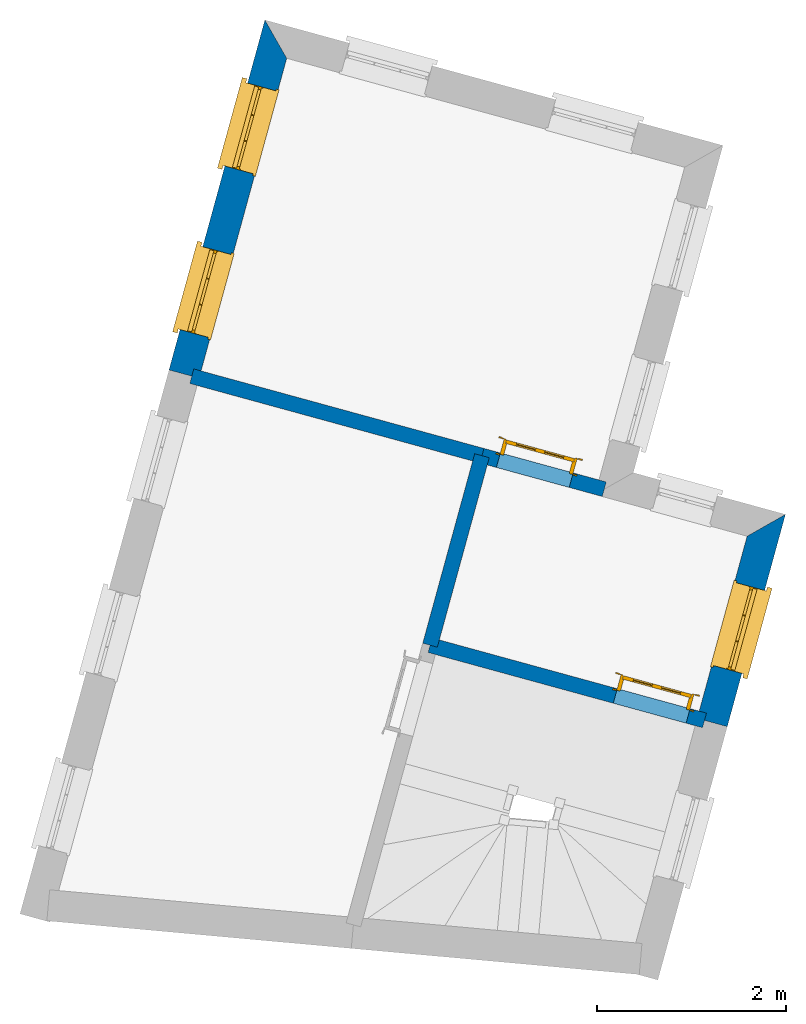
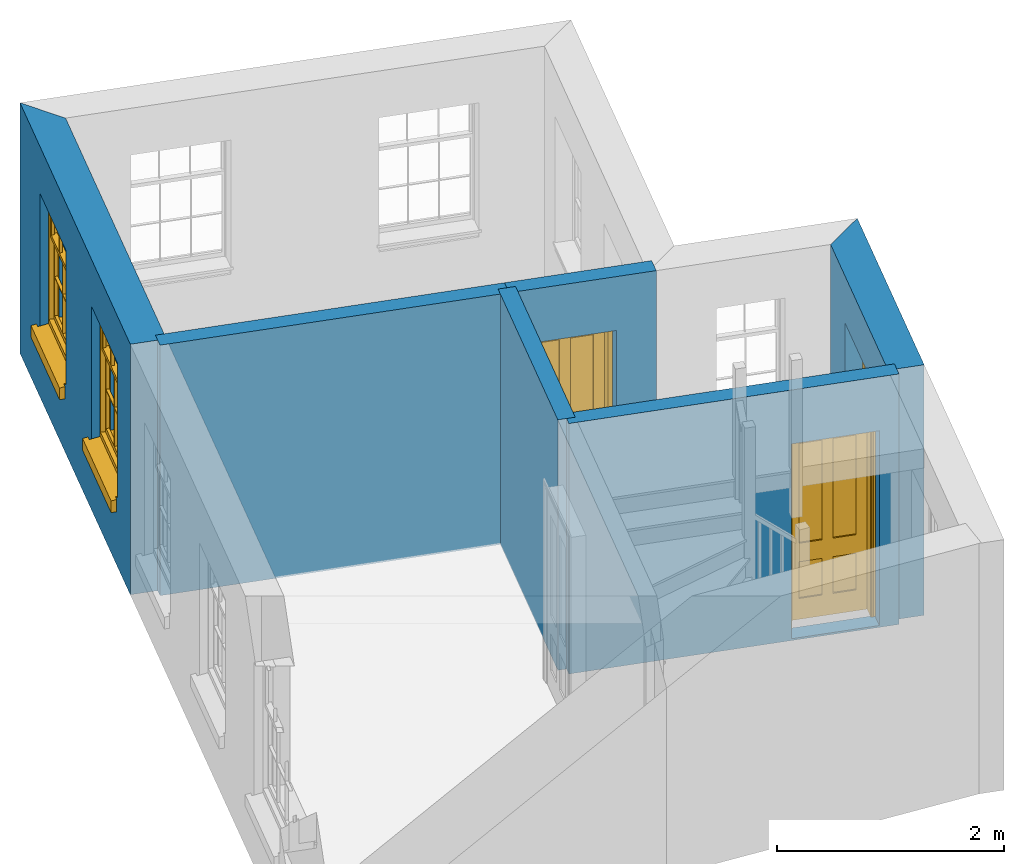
# One storey, part 2 of 4: 6 walls, 3 windows, 2 doors, 5 openings.
"""IFC4 building model written with IfcOpenShell, lengths in metres."""

import ifcopenshell
import ifcopenshell.guid

model = None  # the IFC model being written
_history = None  # IfcOwnerHistory: only IFC2X3 demands one
_inside = {}  # id of a spatial element -> (the spatial element, [elements in it])
_under = {}  # id of a project, library or spatial element -> (it, [spatial elements below it])
_declared = {}  # id of a project -> (the project, [libraries it declares])
_typed = {}  # id of a type object -> (the type object, [elements of that type])
_made_of = {}  # id of a material, layer set ... -> (it, [elements and type objects made of it])


def new_model(schema):
    """Start an empty IFC model of exactly this schema.

    Asked for "IFC4X3", IfcOpenShell would pick the latest addendum, in which some entities
    have other attributes; the version numbers below select the first issue.
    IFC2X3 requires an IfcOwnerHistory on every rooted entity: one is made here for all.
    """
    global model, _history
    if schema == "IFC4X3":
        model = ifcopenshell.file(schema_version=(4, 3, 0, 0))
    else:
        model = ifcopenshell.file(schema=schema)
    _inside.clear()
    _under.clear()
    _declared.clear()
    _typed.clear()
    _made_of.clear()
    _history = None
    if model.schema == "IFC2X3":
        org = make("IfcOrganization", Name="unknown")
        user = make(
            "IfcPersonAndOrganization",
            ThePerson=make("IfcPerson", FamilyName="unknown"),
            TheOrganization=org,
        )
        app = make(
            "IfcApplication",
            ApplicationDeveloper=org,
            Version="unknown",
            ApplicationFullName="unknown",
            ApplicationIdentifier="unknown",
        )
        _history = make(
            "IfcOwnerHistory",
            OwningUser=user,
            OwningApplication=app,
            ChangeAction="ADDED",
            CreationDate=0,
        )
    return model


def make(cls, **values):
    """One entity of the class cls with the attributes given. An attribute that is None is left unset."""
    return model.create_entity(
        cls, **{name: value for name, value in values.items() if value is not None}
    )


def rooted(cls, **values):
    """An entity with a GlobalId (a new one), such as an element, a storey or a relation."""
    return make(cls, GlobalId=ifcopenshell.guid.new(), OwnerHistory=_history, **values)


def si_unit(unit_type, name, prefix=None):
    """IfcSIUnit, for example si_unit("LENGTHUNIT", "METRE", prefix="MILLI")."""
    return make("IfcSIUnit", UnitType=unit_type, Prefix=prefix, Name=name)


def assignment(units):
    """IfcUnitAssignment: the units of a project."""
    return None if units is None else make("IfcUnitAssignment", Units=units)


def point(xyz):
    """IfcCartesianPoint."""
    return None if xyz is None else make("IfcCartesianPoint", Coordinates=xyz)


def direction(xyz):
    """IfcDirection."""
    return None if xyz is None else make("IfcDirection", DirectionRatios=xyz)


def frame(location, z_axis=None, x_axis=None):
    """IfcAxis2Placement3D, a coordinate frame: its origin and axes. An axis left out is left unset."""
    return make(
        "IfcAxis2Placement3D",
        Location=point(location),
        Axis=direction(z_axis),
        RefDirection=direction(x_axis),
    )


def origin():
    """The frame at (0, 0, 0) with its axes left unset."""
    return frame((0.0, 0.0, 0.0))


def origin_with_axes():
    """The frame at (0, 0, 0) with the z axis (0, 0, 1) and the x axis (1, 0, 0) written out."""
    return frame((0.0, 0.0, 0.0), z_axis=(0.0, 0.0, 1.0), x_axis=(1.0, 0.0, 0.0))


def place(relative_to, where):
    """IfcLocalPlacement: puts the frame where relative to a parent placement (None: the world)."""
    return make(
        "IfcLocalPlacement", PlacementRelTo=relative_to, RelativePlacement=where
    )


def context(
    kind, dimensions, precision=None, world=None, true_north=None, identifier=None
):
    """IfcGeometricRepresentationContext, for example the 3D "Model" context."""
    return make(
        "IfcGeometricRepresentationContext",
        ContextIdentifier=identifier,
        ContextType=kind,
        CoordinateSpaceDimension=dimensions,
        Precision=precision,
        WorldCoordinateSystem=world,
        TrueNorth=true_north,
    )


def subcontext(parent, identifier, kind, view, scale=None):
    """IfcGeometricRepresentationSubContext, for example "Body" below "Model"."""
    return make(
        "IfcGeometricRepresentationSubContext",
        ContextIdentifier=identifier,
        ContextType=kind,
        ParentContext=parent,
        TargetScale=scale,
        TargetView=view,
    )


def project(units=None, contexts=None):
    """IfcProject with its units and contexts."""
    return rooted(
        "IfcProject",
        Name="project",
        RepresentationContexts=contexts,
        UnitsInContext=assignment(units),
    )


def spatial(cls, under=None, at=None, **own):
    """A site, building, storey or space (cls), placed at a placement, below another one or the project."""
    s = rooted(cls, ObjectPlacement=at, **own)
    if under is not None:
        _under.setdefault(under.id(), (under, []))[1].append(s)
    return s


def polyline(points):
    """IfcPolyline through the points."""
    return make("IfcPolyline", Points=[point(p) for p in points])


def outline(outer, holes=None, kind="AREA"):
    """IfcArbitraryClosedProfileDef: a profile drawn as a closed curve; with holes, ...WithVoids."""
    if holes is None:
        return make("IfcArbitraryClosedProfileDef", ProfileType=kind, OuterCurve=outer)
    return make(
        "IfcArbitraryProfileDefWithVoids",
        ProfileType=kind,
        OuterCurve=outer,
        InnerCurves=holes,
    )


def extrude(swept, where, along, depth):
    """IfcExtrudedAreaSolid: the profile swept, set in the frame where, extruded along a direction by depth."""
    return make(
        "IfcExtrudedAreaSolid",
        SweptArea=swept,
        Position=where,
        ExtrudedDirection=direction(along),
        Depth=depth,
    )


def faces_of(points, faces, orient=None, outer=None):
    """IfcFace entities. A face is a list of loops; a loop is a list of indices into points, from 0.

    orient and outer hold one flag for each loop. By default every Orientation is true, the
    first loop of a face is its IfcFaceOuterBound and the others are IfcFaceBound.
    """
    made = []
    for i, loops in enumerate(faces):
        bounds = []
        for j, loop in enumerate(loops):
            is_outer = j == 0 if outer is None else outer[i][j]
            bounds.append(
                make(
                    "IfcFaceOuterBound" if is_outer else "IfcFaceBound",
                    Bound=make("IfcPolyLoop", Polygon=[points[k] for k in loop]),
                    Orientation=True if orient is None else orient[i][j],
                )
            )
        made.append(make("IfcFace", Bounds=bounds))
    return made


def faceted_brep(points, faces, orient=None, outer=None, voids=None):
    """IfcFacetedBrep: a solid bounded by flat faces; with voids (closed shells), ...WithVoids."""
    shared = [point(p) for p in points]
    hull = make("IfcClosedShell", CfsFaces=faces_of(shared, faces, orient, outer))
    if voids is None:
        return make("IfcFacetedBrep", Outer=hull)
    return make(
        "IfcFacetedBrepWithVoids",
        Outer=hull,
        Voids=[
            make(cls, CfsFaces=faces_of(shared, fs, o, b)) for cls, fs, o, b in voids
        ],
    )


def shape(context_of_items, identifier, shape_type, items):
    """IfcShapeRepresentation: the items that make up one representation, for example the "Body"."""
    return make(
        "IfcShapeRepresentation",
        ContextOfItems=context_of_items,
        RepresentationIdentifier=identifier,
        RepresentationType=shape_type,
        Items=items,
    )


def source(mapping_origin, context_of_items, identifier, shape_type, items):
    """IfcRepresentationMap: a shape defined once, which mapped items show again and again."""
    return make(
        "IfcRepresentationMap",
        MappingOrigin=mapping_origin,
        MappedRepresentation=shape(context_of_items, identifier, shape_type, items),
    )


def transform(
    local_origin,
    x_axis=None,
    y_axis=None,
    z_axis=None,
    scale=None,
    scale2=None,
    scale3=None,
    uniform=True,
):
    """IfcCartesianTransformationOperator3D, or its non-uniform kind. x_axis, y_axis, z_axis: its Axis1, 2, 3."""
    if uniform:
        return make(
            "IfcCartesianTransformationOperator3D",
            Axis1=direction(x_axis),
            Axis2=direction(y_axis),
            LocalOrigin=point(local_origin),
            Scale=scale,
            Axis3=direction(z_axis),
        )
    return make(
        "IfcCartesianTransformationOperator3DnonUniform",
        Axis1=direction(x_axis),
        Axis2=direction(y_axis),
        LocalOrigin=point(local_origin),
        Scale=scale,
        Axis3=direction(z_axis),
        Scale2=scale2,
        Scale3=scale3,
    )


def mapped(mapping_source, mapping_target):
    """IfcMappedItem: shows the shape of a source again, moved by a transform."""
    return make(
        "IfcMappedItem", MappingSource=mapping_source, MappingTarget=mapping_target
    )


def material(Name=None, Category=None):
    """IfcMaterial."""
    return make("IfcMaterial", Name=Name, Category=Category)


def layer(
    of_material, thickness, ventilated=None, Name=None, Category=None, Priority=None
):
    """IfcMaterialLayer: one layer of a wall or slab, of a material (None: an air gap)."""
    return make(
        "IfcMaterialLayer",
        Material=of_material,
        LayerThickness=thickness,
        IsVentilated=ventilated,
        Name=Name,
        Category=Category,
        Priority=Priority,
    )


def layer_set(layers, Name=None):
    """IfcMaterialLayerSet."""
    return make("IfcMaterialLayerSet", MaterialLayers=layers, LayerSetName=Name)


def layer_usage(for_layer_set, set_direction, sense, offset, extent=None):
    """IfcMaterialLayerSetUsage: how a layer set lies in its element."""
    return make(
        "IfcMaterialLayerSetUsage",
        ForLayerSet=for_layer_set,
        LayerSetDirection=set_direction,
        DirectionSense=sense,
        OffsetFromReferenceLine=offset,
        ReferenceExtent=extent,
    )


def made_of(thing, what):
    """Note that an element or type object is made of a material, layer set ...; save() writes the relation."""
    if what is not None:
        _made_of.setdefault(what.id(), (what, []))[1].append(thing)
    return thing


def type_object(cls, material=None, **own):
    """A type object (cls), such as IfcWallType, which elements share."""
    return made_of(rooted(cls, **own), material)


def type_shapes(of_type, sources):
    """Give a type object the sources (RepresentationMaps) that its elements show as mapped items."""
    of_type.RepresentationMaps = sources


def element(
    cls,
    number,
    at=None,
    inside=None,
    cuts=None,
    type_object=None,
    material=None,
    context=None,
    identifier="Body",
    shape_type=None,
    held_by="IfcProductDefinitionShape",
    body=None,
    shapes=None,
    **own,
):
    """One element of the class cls, such as IfcWall. Its Tag is "e" and its number.

    at: its placement. inside: the storey or other place that contains it. cuts: it is an
    opening in that element (IfcRelVoidsElement). A single representation is given by context,
    identifier, shape_type and body (its items); several are given by shapes. held_by: the class
    of the entity that holds the representations. save() writes the other relations.
    """
    e = rooted(cls, Tag="e%d" % number, ObjectPlacement=at, **own)
    if body is not None:
        shapes = [shape(context, identifier, shape_type, body)]
    if shapes is not None:
        e.Representation = make(held_by, Representations=shapes)
    if inside is not None:
        _inside.setdefault(inside.id(), (inside, []))[1].append(e)
    if cuts is not None:
        rooted(
            "IfcRelVoidsElement", RelatingBuildingElement=cuts, RelatedOpeningElement=e
        )
    if type_object is not None:
        _typed.setdefault(type_object.id(), (type_object, []))[1].append(e)
    return made_of(e, material)


def fill(opening, filler):
    """IfcRelFillsElement: the door or window that sits in an opening."""
    return rooted(
        "IfcRelFillsElement",
        RelatingOpeningElement=opening,
        RelatedBuildingElement=filler,
    )


def aggregate(whole, parts):
    """IfcRelAggregates: a whole, such as a stair, and the parts it consists of."""
    return rooted("IfcRelAggregates", RelatingObject=whole, RelatedObjects=parts)


def save(model, path):
    """Write the relations noted so far, then the file.

    IfcRelAggregates (storeys below a building ...), IfcRelContainedInSpatialStructure (elements
    in a storey), IfcRelDefinesByType, IfcRelAssociatesMaterial and IfcRelDeclares: one each for
    every whole, place, type object, material and project.
    """
    for whole, parts in _under.values():
        aggregate(whole, parts)
    for where, things in _inside.values():
        rooted(
            "IfcRelContainedInSpatialStructure",
            RelatedElements=things,
            RelatingStructure=where,
        )
    for kind, things in _typed.values():
        rooted("IfcRelDefinesByType", RelatedObjects=things, RelatingType=kind)
    for what, things in _made_of.values():
        rooted("IfcRelAssociatesMaterial", RelatedObjects=things, RelatingMaterial=what)
    for by, libraries in _declared.values():
        rooted("IfcRelDeclares", RelatingContext=by, RelatedDefinitions=libraries)
    model.write(path)


model = new_model("IFC4")

# Units and contexts
model_context = context("Model", 3, world=origin_with_axes())
body_context = subcontext(model_context, "Body", "Model", "MODEL_VIEW")
ifc_project = project(units=[si_unit("PLANEANGLEUNIT", "RADIAN"), si_unit("MASSUNIT", "GRAM", prefix="KILO"), si_unit("FORCEUNIT", "NEWTON", prefix="KILO"), si_unit("LENGTHUNIT", "METRE"), si_unit("AREAUNIT", "SQUARE_METRE"), si_unit("VOLUMEUNIT", "CUBIC_METRE")], contexts=[model_context, model_context])

# Sites, building, storey
site_1_placement = place(None, origin_with_axes())
site_1 = spatial("IfcSite", under=ifc_project, at=site_1_placement, Name="Tamar")
site_2_placement = place(site_1_placement, origin_with_axes())
site_2 = spatial("IfcSite", under=site_1, at=site_2_placement, Name="Site plot-28", CompositionType="ELEMENT")
building_placement = place(None, origin_with_axes())
building = spatial("IfcBuilding", under=site_2, at=building_placement, Name="Building plot-28", CompositionType="ELEMENT")
storey_placement = place(None, frame((0.0, 0.0, 27.15), z_axis=(0.0, 0.0, 1.0), x_axis=(1.0, 0.0, 0.0)))
storey = spatial("IfcBuildingStorey", under=building, at=storey_placement, Name="plot-28 1", CompositionType="ELEMENT", Elevation=27.15)

# Wall, opening, window
ifc_material_1 = material(Name="Masonry")
ifc_layer_1 = layer(ifc_material_1, 0.33, ventilated=False)
ifc_layer_set_1 = layer_set([ifc_layer_1], Name="exterior_0.08_0.25")
ifc_layer_usage_1 = layer_usage(ifc_layer_set_1, "AXIS2", "POSITIVE", -0.25)
wall_type_1 = type_object("IfcWallType", Name="exterior_0.08_0.25", PredefinedType="SOLIDWALL", material=ifc_layer_set_1)
wall_1_placement = place(storey_placement, frame((266.03017594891, 261.552061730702, 0.0), z_axis=(0.0, 0.0, 1.0), x_axis=(0.26425530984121, 0.96445276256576, 0.0)))
wall_1 = element("IfcWall", 1, at=wall_1_placement, inside=storey, type_object=wall_type_1, material=ifc_layer_usage_1, Name="exterior", context=body_context, shape_type="SweptSolid", body=[
    extrude(outline(polyline([(5.82694029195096e-14, 0.0799999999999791), (-1.87556871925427e-13, -0.249999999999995), (2.33108839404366, -0.250000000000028), (2.00108839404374, 0.0800000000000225), (5.82694029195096e-14, 0.0799999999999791)])), origin_with_axes(), (0.0, 0.0, 1.0), 2.7),
])
opening_1_placement = place(wall_1_placement, frame((0.58554419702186, 0.0, 0.75)))
opening_1 = element("IfcOpeningElement", 2, at=opening_1_placement, cuts=wall_1, Name="My Opening", ObjectType="Opening", context=body_context, shape_type="SweptSolid", body=[
    extrude(outline(polyline([(0.0, -0.270000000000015), (0.909999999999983, -0.269999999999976), (0.909999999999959, 1.10000000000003), (-2.37587727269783e-14, 1.09999999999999), (0.0, -0.270000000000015)])), origin_with_axes(), (0.0, 0.0, 1.0), 1.445),
])
window_type = type_object("IfcWindowType", Name="sash_shorter", PartitioningType="DOUBLE_PANEL_HORIZONTAL", PredefinedType="NOTDEFINED")
shared_shape_1 = source(origin(), body_context, "Body", "Brep", [
    faceted_brep([(0.876875, 0.145, 0.999097), (0.876875, 0.145, 1.411875), (0.9, 0.145, 1.435), (0.033125, 0.145, 1.411875), (0.033125, 0.145, 0.999097), (0.01, 0.145, 1.435), (0.033125, 0.115, 1.411875), (0.01, 0.115, 1.435), (0.033125, 0.115, 0.999097), (0.876875, 0.115, 1.411875), (0.876875, 0.115, 0.999097), (0.9, 0.115, 1.435), (0.033125, 0.145, 0.960972), (0.01, 0.145, 0.960972), (0.033125, 0.145, 0.548195), (0.876875, 0.145, 0.960972), (0.876875, 0.145, 0.548195), (0.9, 0.145, 0.960972), (0.876875, 0.145, 0.538195), (0.876875, 0.145, 0.125417), (0.9, 0.145, 0.077167), (0.033125, 0.145, 0.125417), (0.033125, 0.145, 0.538195), (0.01, 0.145, 0.077167), (0.9, 0.115, 0.960972), (0.01, 0.115, 0.960972), (-0.0425, 0.0, 0.01), (-0.0425, -0.05, 0.001667), (0.0, 0.0, 0.01), (0.9525, 0.0, 0.01), (0.91, 0.0, 0.01), (0.9525, -0.05, 0.001667), (-0.02, 0.33, 0.077167), (0.0, 0.33, 0.077167), (-0.02, 0.36, 0.077167), (0.0, 0.19, 0.077167), (0.01, 0.19, 0.077167), (0.91, 0.19, 0.077167), (0.91, 0.33, 0.077167), (0.9, 0.19, 0.077167), (0.93, 0.33, 0.077167), (0.93, 0.36, 0.077167), (0.01, 0.145, 0.999097), (0.01, 0.175, 0.999097), (0.9, 0.145, 0.999097), (0.9, 0.175, 0.999097), (0.876875, 0.175, 0.125417), (0.876875, 0.175, 0.538195), (0.9, 0.175, 0.077167), (0.876875, 0.175, 0.548195), (0.876875, 0.175, 0.960972), (0.033125, 0.175, 0.125417), (0.01, 0.175, 0.077167), (0.033125, 0.175, 0.538195), (0.033125, 0.175, 0.960972), (0.033125, 0.175, 0.548195), (-0.02, 0.33, 0.052167), (-0.02, 0.36, 0.052167), (0.93, 0.36, 0.052167), (0.93, 0.33, 0.052167), (0.91, 0.33, 0.052167), (0.0, 0.33, 0.052167), (0.91, 0.1, 0.026667), (0.0, 0.1, 0.026667), (-0.0425, -0.05, -0.123333), (0.9525, -0.05, -0.123333), (-0.0425, 0.0, -0.123333), (0.9525, 0.0, -0.123333), (0.01, 0.19, 1.435), (0.9, 0.19, 1.435), (0.0, 0.19, 1.445), (0.91, 0.19, 1.445), (0.01, 0.1, 0.077167), (0.9, 0.1, 0.077167), (0.592292, 0.145, 0.125417), (0.592292, 0.175, 0.125417), (0.317708, 0.175, 0.125417), (0.317708, 0.145, 0.125417), (0.592292, 0.145, 0.548195), (0.317708, 0.145, 0.548195), (0.317708, 0.145, 0.538195), (0.592292, 0.145, 0.538195), (0.592292, 0.175, 0.548195), (0.317708, 0.175, 0.548195), (0.602292, 0.175, 0.548195), (0.602292, 0.145, 0.548195), (0.317708, 0.175, 0.538195), (0.307708, 0.175, 0.125417), (0.307708, 0.175, 0.538195), (0.602292, 0.175, 0.538195), (0.602292, 0.175, 0.125417), (0.592292, 0.175, 0.538195), (0.307708, 0.175, 0.548195), (0.317708, 0.175, 0.960972), (0.307708, 0.175, 0.960972), (0.602292, 0.175, 0.960972), (0.592292, 0.175, 0.960972), (0.307708, 0.145, 0.538195), (0.307708, 0.145, 0.125417), (0.307708, 0.145, 0.548195), (0.307708, 0.145, 0.960972), (0.592292, 0.145, 0.960972), (0.317708, 0.145, 0.960972), (0.602292, 0.145, 0.960972), (0.602292, 0.145, 0.538195), (0.602292, 0.145, 0.125417), (0.317708, 0.115, 1.411875), (0.307708, 0.115, 1.411875), (0.307708, 0.115, 0.999097), (0.317708, 0.115, 0.999097), (0.602292, 0.115, 1.411875), (0.592292, 0.115, 1.411875), (0.592292, 0.115, 0.999097), (0.602292, 0.115, 0.999097), (0.317708, 0.145, 0.999097), (0.307708, 0.145, 0.999097), (0.307708, 0.145, 1.411875), (0.317708, 0.145, 1.411875), (0.602292, 0.145, 0.999097), (0.592292, 0.145, 0.999097), (0.592292, 0.145, 1.411875), (0.602292, 0.145, 1.411875), (0.91, 0.1, 1.445), (0.9, 0.1, 1.435), (0.01, 0.1, 1.435), (0.0, 0.1, 1.445), (0.91, 0.0, 0.0), (0.0, 0.0, 0.0), (0.91, 0.33, 0.0), (0.0, 0.33, 0.0)], [[[0, 1, 2]], [[3, 4, 5]], [[6, 7, 8]], [[9, 10, 11]], [[12, 13, 14]], [[15, 16, 17]], [[18, 19, 20]], [[21, 22, 23]], [[24, 15, 17]], [[13, 12, 25]], [[26, 27, 28]], [[29, 30, 31]], [[32, 33, 34]], [[35, 36, 33]], [[37, 38, 39]], [[40, 41, 38]], [[42, 4, 43]], [[44, 45, 0]], [[46, 47, 48]], [[49, 50, 45]], [[51, 52, 53]], [[54, 55, 43]], [[38, 33, 36, 39]], [[41, 34, 33, 38]], [[56, 32, 34, 57]], [[57, 34, 41, 58]], [[58, 41, 40, 59]], [[57, 58, 60, 61]], [[52, 48, 39, 36]], [[62, 63, 28, 30]], [[27, 31, 30, 28]], [[27, 64, 65, 31]], [[66, 67, 65, 64]], [[2, 5, 68, 69]], [[68, 70, 71, 69]], [[20, 23, 72, 73]], [[73, 72, 63, 62]], [[74, 75, 76, 77]], [[78, 79, 80, 81]], [[78, 82, 83, 79]], [[16, 49, 84, 85]], [[86, 76, 87, 88]], [[89, 90, 75, 91]], [[92, 88, 53, 55]], [[82, 91, 86, 83]], [[93, 83, 92, 94]], [[95, 84, 82, 96]], [[89, 84, 49, 47]], [[97, 88, 87, 98]], [[22, 53, 88, 97]], [[81, 91, 75, 74]], [[80, 86, 91, 81]], [[77, 76, 86, 80]], [[99, 92, 55, 14]], [[100, 94, 92, 99]], [[101, 96, 82, 78]], [[79, 83, 93, 102]], [[85, 84, 95, 103]], [[104, 89, 47, 18]], [[105, 90, 89, 104]], [[104, 18, 16, 85]], [[80, 97, 98, 77]], [[104, 81, 74, 105]], [[103, 101, 78, 85]], [[99, 14, 22, 97]], [[102, 100, 99, 79]], [[106, 107, 108, 109]], [[110, 111, 112, 113]], [[114, 115, 116, 117]], [[118, 119, 120, 121]], [[107, 116, 115, 108]], [[111, 120, 119, 112]], [[109, 114, 117, 106]], [[113, 118, 121, 110]], [[85, 78, 81, 104]], [[84, 89, 91, 82]], [[83, 86, 88, 92]], [[79, 99, 97, 80]], [[109, 112, 119, 114]], [[102, 93, 96, 101]], [[106, 117, 120, 111]], [[98, 87, 51, 21]], [[6, 3, 116, 107]], [[110, 121, 1, 9]], [[19, 46, 90, 105]], [[26, 66, 64, 27]], [[29, 31, 65, 67]], [[25, 24, 112, 109]], [[11, 7, 106, 111]], [[75, 48, 52, 76]], [[43, 45, 96, 93]], [[45, 43, 114, 119]], [[5, 2, 120, 117]], [[24, 25, 102, 101]], [[42, 5, 4]], [[2, 44, 0]], [[49, 45, 48, 47]], [[52, 43, 55, 53]], [[14, 13, 23, 22]], [[20, 17, 16, 18]], [[24, 11, 10]], [[25, 8, 7]], [[8, 4, 3, 6]], [[9, 1, 0, 10]], [[15, 50, 49, 16]], [[18, 47, 46, 19]], [[21, 51, 53, 22]], [[14, 55, 54, 12]], [[44, 2, 69, 45]], [[68, 5, 42, 43]], [[36, 35, 70, 68]], [[39, 69, 71, 37]], [[62, 122, 123, 73]], [[63, 72, 124, 125]], [[8, 108, 115, 4]], [[113, 10, 0, 118]], [[94, 100, 12, 54]], [[17, 20, 73, 24]], [[72, 23, 13, 25]], [[52, 36, 68, 43]], [[69, 39, 48, 45]], [[11, 24, 73, 123]], [[7, 124, 72, 25]], [[23, 77, 98]], [[98, 21, 23]], [[105, 74, 20]], [[20, 19, 105]], [[20, 74, 77, 23]], [[113, 112, 24]], [[24, 10, 113]], [[25, 109, 108]], [[108, 8, 25]], [[110, 9, 11]], [[11, 111, 110]], [[7, 6, 107]], [[107, 106, 7]], [[5, 117, 116]], [[116, 3, 5]], [[121, 120, 2]], [[2, 1, 121]], [[11, 123, 124, 7]], [[122, 125, 124, 123]], [[43, 93, 94]], [[94, 54, 43]], [[96, 45, 95]], [[50, 95, 45]], [[15, 103, 95, 50]], [[48, 75, 90]], [[90, 46, 48]], [[87, 76, 52]], [[52, 51, 87]], [[103, 15, 24]], [[24, 101, 103]], [[100, 102, 25]], [[25, 12, 100]], [[115, 114, 43]], [[43, 4, 115]], [[118, 0, 45]], [[45, 119, 118]], [[71, 70, 125, 122]], [[70, 35, 63, 125]], [[122, 62, 37, 71]], [[126, 67, 66, 127]], [[60, 58, 59]], [[38, 60, 59, 40]], [[61, 56, 57]], [[32, 56, 61, 33]], [[61, 60, 128, 129]], [[62, 60, 38, 37]], [[126, 128, 60, 62]], [[33, 61, 63, 35]], [[61, 129, 127, 63]], [[128, 126, 127, 129]], [[28, 127, 66, 26]], [[63, 127, 28]], [[29, 67, 126, 30]], [[30, 126, 62]]]),
])
type_shapes(window_type, [shared_shape_1])
window_1_placement = place(storey_placement, frame((266.445311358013, 262.045442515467, 0.75), z_axis=(0.0, 0.0, 1.0), x_axis=(0.240472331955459, 0.877652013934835, 0.0)))
window_1 = element("IfcWindow", 3, at=window_1_placement, inside=storey, type_object=window_type, Name="circulation outside window", OverallHeight=1.445, OverallWidth=0.91, context=body_context, shape_type="MappedRepresentation", body=[
    mapped(shared_shape_1, transform((0.0, 0.0, 0.0), scale=1.0)),
])
fill(opening_1, window_1)

# Wall, openings, windows
wall_2_placement = place(storey_placement, frame((261.549386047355, 268.663273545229, 0.0), z_axis=(0.0, 0.0, 1.0), x_axis=(-0.264255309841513, -0.964452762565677, 0.0)))
wall_2 = element("IfcWall", 4, at=wall_2_placement, inside=storey, type_object=wall_type_1, material=ifc_layer_usage_1, Name="exterior", context=body_context, shape_type="SweptSolid", body=[
    extrude(outline(polyline([(0.0799999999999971, 0.0800000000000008), (-0.250000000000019, -0.249999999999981), (3.59326696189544, -0.250000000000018), (3.59326696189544, 0.080000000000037), (0.0799999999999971, 0.0800000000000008)])), origin_with_axes(), (0.0, 0.0, 1.0), 2.7),
])
opening_2_placement = place(wall_2_placement, frame((0.443316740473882, 0.0, 0.75)))
opening_2 = element("IfcOpeningElement", 5, at=opening_2_placement, cuts=wall_2, Name="My Opening", ObjectType="Opening", context=body_context, shape_type="SweptSolid", body=[
    extrude(outline(polyline([(0.0, -0.269999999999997), (0.910000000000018, -0.270000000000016), (0.91000000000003, 1.10000000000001), (1.28785870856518e-14, 1.10000000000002), (0.0, -0.269999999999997)])), origin_with_axes(), (0.0, 0.0, 1.0), 1.445),
])
opening_3_placement = place(wall_2_placement, frame((2.23995022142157, 0.0, 0.75)))
opening_3 = element("IfcOpeningElement", 6, at=opening_3_placement, cuts=wall_2, Name="My Opening", ObjectType="Opening", context=body_context, shape_type="SweptSolid", body=[
    extrude(outline(polyline([(0.0, -0.270000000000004), (0.910000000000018, -0.270000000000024), (0.91000000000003, 1.1), (1.28785870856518e-14, 1.10000000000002), (0.0, -0.270000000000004)])), origin_with_axes(), (0.0, 0.0, 1.0), 1.445),
])
window_2_placement = place(storey_placement, frame((261.17183499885, 268.307064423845, 0.75), z_axis=(0.0, 0.0, 1.0), x_axis=(-0.2404723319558, -0.877652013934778, 0.0)))
window_2 = element("IfcWindow", 7, at=window_2_placement, inside=storey, type_object=window_type, Name="bedroom outside window", OverallHeight=1.445, OverallWidth=0.91, context=body_context, shape_type="MappedRepresentation", body=[
    mapped(shared_shape_1, transform((0.0, 0.0, 0.0), scale=1.0)),
])
fill(opening_2, window_2)
window_3_placement = place(storey_placement, frame((260.697065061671, 266.574296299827, 0.75), z_axis=(0.0, 0.0, 1.0), x_axis=(-0.2404723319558, -0.877652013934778, 0.0)))
window_3 = element("IfcWindow", 8, at=window_3_placement, inside=storey, type_object=window_type, Name="bedroom outside window", OverallHeight=1.445, OverallWidth=0.91, context=body_context, shape_type="MappedRepresentation", body=[
    mapped(shared_shape_1, transform((0.0, 0.0, 0.0), scale=1.0)),
])
fill(opening_3, window_3)

# Walls
ifc_material_2 = material(Name="Masonry")
ifc_layer_2 = layer(ifc_material_2, 0.16, ventilated=False)
ifc_layer_set_2 = layer_set([ifc_layer_2], Name="interior_0.08_0.08")
ifc_layer_usage_2 = layer_usage(ifc_layer_set_2, "AXIS2", "POSITIVE", -0.08)
wall_type_2 = type_object("IfcWallType", Name="interior_0.08_0.08", PredefinedType="SOLIDWALL", material=ifc_layer_set_2)
wall_3_placement = place(storey_placement, frame((263.673281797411, 264.35563106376, 0.0), z_axis=(0.0, 0.0, 1.0), x_axis=(-0.964452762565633, 0.264255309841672, 0.0)))
element("IfcWall", 9, at=wall_3_placement, inside=storey, type_object=wall_type_2, material=ifc_layer_usage_2, Name="interior", context=body_context, shape_type="SweptSolid", body=[
    extrude(outline(polyline([(1.99000951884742e-14, 0.0799999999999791), (-1.9908061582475e-14, -0.0799999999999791), (3.18671452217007, -0.0799999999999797), (3.18671452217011, 0.0799999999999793), (1.99000951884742e-14, 0.0799999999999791)])), origin_with_axes(), (0.0, 0.0, 1.0), 2.7),
])
wall_4_placement = place(storey_placement, frame((263.673281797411, 264.35563106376, 0.0), z_axis=(0.0, 0.0, 1.0), x_axis=(-0.264255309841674, -0.964452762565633, 0.0)))
element("IfcWall", 10, at=wall_4_placement, inside=storey, type_object=wall_type_2, material=ifc_layer_usage_2, Name="interior", context=body_context, shape_type="SweptSolid", body=[
    extrude(outline(polyline([(1.96673380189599e-14, 0.0799999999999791), (-1.9712662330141e-14, -0.0799999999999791), (2.08108839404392, -0.0799999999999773), (2.08108839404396, 0.0799999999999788), (1.96673380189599e-14, 0.0799999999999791)])), origin_with_axes(), (0.0, 0.0, 1.0), 2.7),
])

# Wall, opening, door
wall_5_placement = place(storey_placement, frame((263.123343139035, 262.348519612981, 0.0), z_axis=(0.0, 0.0, 1.0), x_axis=(0.964452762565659, -0.264255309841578, 0.0)))
wall_5 = element("IfcWall", 11, at=wall_5_placement, inside=storey, type_object=wall_type_2, material=ifc_layer_usage_2, Name="interior", context=body_context, shape_type="SweptSolid", body=[
    extrude(outline(polyline([(2.77338288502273e-14, 0.0799999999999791), (-2.77258624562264e-14, -0.0799999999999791), (3.01397115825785, -0.0799999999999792), (3.0139711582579, 0.079999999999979), (2.77338288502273e-14, 0.0799999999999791)])), origin_with_axes(), (0.0, 0.0, 1.0), 2.7),
])
opening_4_placement = place(wall_5_placement, frame((2.03397115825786, 0.0, 0.0199999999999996)))
opening_4 = element("IfcOpeningElement", 12, at=opening_4_placement, cuts=wall_5, Name="My Opening", ObjectType="Opening", context=body_context, shape_type="SweptSolid", body=[
    extrude(outline(polyline([(0.0, -0.100000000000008), (0.80000000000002, -0.100000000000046), (0.800000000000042, 1.1), (2.1316282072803e-14, 1.10000000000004), (0.0, -0.100000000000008)])), origin_with_axes(), (0.0, 0.0, 1.0), 2.1),
])
door_type = type_object("IfcDoorType", Name="door_inside", OperationType="SINGLE_SWING_LEFT", PredefinedType="NOTDEFINED")
shared_shape_2 = source(origin(), body_context, "Body", "Brep", [
    faceted_brep([(0.773, 0.33, 1.895), (0.66, 0.33, 1.895), (0.66, 0.33, 2.073), (0.773, 0.33, 2.073), (0.773, 0.33, 0.82), (0.66, 0.33, 0.82), (0.45, 0.33, 1.895), (0.45, 0.33, 2.073), (0.773, 0.33, 0.62), (0.66, 0.33, 0.62), (0.66, 0.315, 0.82), (0.66, 0.315, 1.895), (0.45, 0.315, 1.895), (0.35, 0.33, 1.895), (0.35, 0.33, 2.073), (0.773, 0.33, 0.225), (0.66, 0.33, 0.225), (0.45, 0.33, 0.62), (0.45, 0.33, 0.82), (0.45, 0.315, 0.82), (0.35, 0.33, 0.82), (0.14, 0.33, 2.073), (0.14, 0.33, 1.895), (0.773, 0.33, 0.0), (0.66, 0.33, 0.0), (0.66, 0.315, 0.225), (0.66, 0.315, 0.62), (0.45, 0.315, 0.62), (0.35, 0.33, 0.62), (0.35, 0.315, 0.82), (0.35, 0.315, 1.895), (0.14, 0.315, 1.895), (0.027, 0.33, 2.073), (0.027, 0.33, 1.895), (0.773, 0.292, 0.0), (0.66, 0.292, 0.0), (0.45, 0.33, 0.0), (0.45, 0.33, 0.225), (0.45, 0.315, 0.225), (0.35, 0.33, 0.225), (0.14, 0.33, 0.82), (0.14, 0.33, 0.62), (0.14, 0.315, 0.82), (0.027, 0.33, 0.82), (0.773, 0.292, 0.225), (0.66, 0.292, 0.225), (0.45, 0.292, 0.0), (0.35, 0.33, 0.0), (0.35, 0.315, 0.225), (0.35, 0.315, 0.62), (0.14, 0.315, 0.62), (0.027, 0.33, 0.62), (0.773, 0.292, 0.62), (0.66, 0.292, 0.62), (0.45, 0.292, 0.225), (0.35, 0.292, 0.0), (0.14, 0.33, 0.225), (0.14, 0.33, 0.0), (0.14, 0.315, 0.225), (0.027, 0.33, 0.225), (0.773, 0.292, 0.82), (0.66, 0.292, 0.82), (0.66, 0.307, 0.62), (0.66, 0.307, 0.225), (0.45, 0.307, 0.225), (0.35, 0.292, 0.225), (0.14, 0.292, 0.0), (0.027, 0.33, 0.0), (0.773, 0.292, 1.895), (0.66, 0.292, 1.895), (0.45, 0.292, 0.62), (0.45, 0.292, 0.82), (0.45, 0.307, 0.62), (0.35, 0.292, 0.62), (0.14, 0.292, 0.225), (0.027, 0.292, 0.0), (0.773, 0.292, 2.073), (0.66, 0.292, 2.073), (0.66, 0.307, 1.895), (0.66, 0.307, 0.82), (0.45, 0.307, 0.82), (0.35, 0.292, 0.82), (0.35, 0.307, 0.62), (0.35, 0.307, 0.225), (0.14, 0.307, 0.225), (0.027, 0.292, 0.225), (0.45, 0.292, 1.895), (0.45, 0.292, 2.073), (0.45, 0.307, 1.895), (0.35, 0.292, 1.895), (0.14, 0.292, 0.82), (0.14, 0.292, 0.62), (0.14, 0.307, 0.62), (0.027, 0.292, 0.62), (0.35, 0.292, 2.073), (0.35, 0.307, 1.895), (0.35, 0.307, 0.82), (0.14, 0.307, 0.82), (0.027, 0.292, 0.82), (0.14, 0.292, 2.073), (0.14, 0.292, 1.895), (0.14, 0.307, 1.895), (0.027, 0.292, 1.895), (0.027, 0.292, 2.073), (0.02, 0.335, 0.0), (0.005, 0.34, 0.0), (0.005, 0.34, 2.095), (0.02, 0.335, 2.08), (0.02, 0.33, 0.0), (0.0, 0.335, 0.0), (0.0, 0.335, 2.1), (0.795, 0.34, 2.095), (0.78, 0.335, 2.08), (0.02, 0.33, 2.08), (0.0, 0.33, 0.0), (-0.032, 0.345, 0.0), (-0.032, 0.345, 2.132), (0.8, 0.335, 2.1), (0.795, 0.34, 0.0), (0.78, 0.335, 0.0), (0.78, 0.33, 2.08), (0.04, 0.29, 0.0), (0.025, 0.29, 0.0), (0.025, 0.29, 2.075), (0.04, 0.29, 2.06), (-0.04, 0.34, 0.0), (-0.04, 0.34, 2.14), (0.832, 0.345, 2.132), (0.8, 0.335, 0.0), (0.78, 0.33, 0.0), (0.8, 0.33, 0.0), (0.86, 0.33, 0.0), (0.86, 0.33, 2.16), (0.8, 0.33, 2.1), (-0.06, 0.33, 2.16), (0.0, 0.33, 2.1), (-0.06, 0.33, 0.0), (-0.04, 0.345, 0.0), (-0.04, 0.345, 2.14), (0.84, 0.34, 2.14), (0.832, 0.345, 0.0), (0.84, 0.34, 0.0), (0.86, 0.345, 0.0), (0.86, 0.345, 2.16), (-0.06, 0.345, 2.16), (-0.06, 0.345, 0.0), (0.84, 0.345, 0.0), (0.84, 0.345, 2.14), (-0.025, 0.155, 0.0), (-0.025, 0.16, 0.0), (-0.025, 0.16, 2.125), (-0.025, 0.155, 2.125), (-0.017, 0.155, 0.0), (-0.017, 0.155, 2.117), (0.825, 0.16, 2.125), (0.825, 0.155, 2.125), (0.825, 0.155, 0.0), (0.845, 0.155, 0.0), (-0.045, 0.155, 2.145), (-0.045, 0.155, 0.0), (0.845, 0.155, 2.145), (0.015, 0.165, 0.0), (0.015, 0.165, 2.085), (0.817, 0.155, 2.117), (0.825, 0.16, 0.0), (0.845, 0.17, 0.0), (0.845, 0.17, 2.145), (-0.045, 0.17, 2.145), (-0.045, 0.17, 0.0), (0.02, 0.16, 0.0), (0.02, 0.16, 2.08), (0.785, 0.165, 2.085), (0.817, 0.155, 0.0), (0.8, 0.17, 0.0), (0.8, 0.17, 2.1), (0.0, 0.17, 2.1), (0.0, 0.17, 0.0), (0.035, 0.165, 0.0), (0.035, 0.165, 2.065), (0.78, 0.16, 2.08), (0.785, 0.165, 0.0), (0.775, 0.29, 2.075), (0.76, 0.29, 2.06), (0.035, 0.17, 2.065), (0.035, 0.17, 0.0), (0.765, 0.165, 2.065), (0.78, 0.16, 0.0), (0.765, 0.17, 0.0), (0.765, 0.17, 2.065), (0.765, 0.165, 0.0), (0.04, 0.17, 2.06), (0.04, 0.17, 0.0), (0.76, 0.17, 2.06), (0.76, 0.17, 0.0), (0.76, 0.29, 0.0), (0.775, 0.29, 0.0), (0.025, 0.33, 0.0), (0.025, 0.33, 2.075), (0.775, 0.33, 0.0), (0.775, 0.33, 2.075)], [[[0, 1, 2, 3]], [[1, 0, 4, 5]], [[1, 6, 7, 2]], [[8, 9, 5, 4]], [[1, 5, 10, 11]], [[6, 1, 11, 12]], [[6, 13, 14, 7]], [[15, 16, 9, 8]], [[9, 17, 18, 5]], [[5, 18, 19, 10]], [[10, 19, 12, 11]], [[18, 6, 12, 19]], [[18, 20, 13, 6]], [[21, 14, 13, 22]], [[23, 24, 16, 15]], [[9, 16, 25, 26]], [[17, 9, 26, 27]], [[17, 28, 20, 18]], [[13, 20, 29, 30]], [[22, 13, 30, 31]], [[32, 21, 22, 33]], [[34, 35, 24, 23]], [[24, 36, 37, 16]], [[16, 37, 38, 25]], [[25, 38, 27, 26]], [[37, 17, 27, 38]], [[37, 39, 28, 17]], [[40, 20, 28, 41]], [[20, 40, 42, 29]], [[31, 30, 29, 42]], [[40, 22, 31, 42]], [[33, 22, 40, 43]], [[35, 34, 44, 45]], [[35, 46, 36, 24]], [[36, 47, 39, 37]], [[28, 39, 48, 49]], [[41, 28, 49, 50]], [[43, 40, 41, 51]], [[45, 44, 52, 53]], [[46, 35, 45, 54]], [[46, 55, 47, 36]], [[56, 39, 47, 57]], [[39, 56, 58, 48]], [[50, 49, 48, 58]], [[56, 41, 50, 58]], [[51, 41, 56, 59]], [[53, 52, 60, 61]], [[45, 53, 62, 63]], [[54, 45, 63, 64]], [[55, 46, 54, 65]], [[55, 66, 57, 47]], [[59, 56, 57, 67]], [[61, 60, 68, 69]], [[70, 53, 61, 71]], [[53, 70, 72, 62]], [[72, 64, 63, 62]], [[70, 54, 64, 72]], [[65, 54, 70, 73]], [[65, 74, 66, 55]], [[67, 57, 66, 75]], [[69, 68, 76, 77]], [[61, 69, 78, 79]], [[71, 61, 79, 80]], [[73, 70, 71, 81]], [[65, 73, 82, 83]], [[74, 65, 83, 84]], [[74, 85, 75, 66]], [[86, 69, 77, 87]], [[69, 86, 88, 78]], [[88, 80, 79, 78]], [[86, 71, 80, 88]], [[81, 71, 86, 89]], [[73, 81, 90, 91]], [[73, 91, 92, 82]], [[83, 82, 92, 84]], [[91, 74, 84, 92]], [[91, 93, 85, 74]], [[89, 86, 87, 94]], [[81, 89, 95, 96]], [[90, 81, 96, 97]], [[90, 98, 93, 91]], [[94, 99, 100, 89]], [[89, 100, 101, 95]], [[101, 97, 96, 95]], [[100, 90, 97, 101]], [[100, 102, 98, 90]], [[99, 103, 102, 100]], [[32, 103, 99, 21]], [[102, 103, 32, 33]], [[98, 102, 33, 43]], [[21, 99, 94, 14]], [[94, 87, 7, 14]], [[7, 87, 77, 2]], [[76, 3, 2, 77]], [[43, 51, 93, 98]], [[51, 59, 85, 93]], [[67, 75, 85, 59]], [[34, 23, 15, 44]], [[44, 15, 8, 52]], [[52, 8, 4, 60]], [[0, 68, 60, 4]], [[0, 3, 76, 68]], [[104, 105, 106, 107]], [[104, 108, 109, 105]], [[105, 109, 110, 106]], [[107, 106, 111, 112]], [[107, 113, 108, 104]], [[114, 109, 108]], [[109, 115, 116, 110]], [[106, 110, 117, 111]], [[112, 111, 118, 119]], [[113, 107, 112, 120]], [[121, 122, 123, 124]], [[115, 109, 114, 125]], [[115, 125, 126, 116]], [[110, 116, 127, 117]], [[111, 117, 128, 118]], [[118, 128, 129, 119]], [[120, 112, 119, 129]], [[130, 129, 128]], [[130, 131, 132, 133]], [[133, 132, 134, 135]], [[135, 134, 136, 114]], [[136, 125, 114]], [[125, 137, 138, 126]], [[116, 126, 139, 127]], [[117, 127, 140, 128]], [[141, 130, 128, 140]], [[131, 130, 141]], [[131, 142, 143, 132]], [[132, 143, 144, 134]], [[134, 144, 145, 136]], [[137, 125, 136, 145]], [[143, 142, 146]], [[143, 146, 147]], [[137, 145, 144]], [[143, 147, 138]], [[138, 137, 144]], [[143, 138, 144]], [[126, 138, 147, 139]], [[127, 139, 141, 140]], [[142, 131, 141, 146]], [[139, 147, 146, 141]], [[148, 149, 150, 151]], [[149, 152, 153, 150]], [[151, 150, 154, 155]], [[155, 156, 157]], [[158, 159, 148]], [[158, 148, 151]], [[155, 157, 160]], [[158, 151, 155]], [[155, 160, 158]], [[152, 161, 162, 153]], [[150, 153, 163, 154]], [[155, 154, 164, 156]], [[156, 164, 165, 157]], [[157, 165, 166, 160]], [[160, 166, 167, 158]], [[158, 167, 168, 159]], [[161, 169, 170, 162]], [[153, 162, 171, 163]], [[154, 163, 172, 164]], [[165, 164, 173]], [[165, 173, 174, 166]], [[166, 174, 175, 167]], [[167, 175, 176, 168]], [[169, 177, 178, 170]], [[162, 170, 179, 171]], [[163, 171, 180, 172]], [[172, 180, 173, 164]], [[124, 123, 181, 182]], [[183, 178, 177, 184]], [[170, 178, 185, 179]], [[171, 179, 186, 180]], [[187, 173, 180]], [[185, 188, 187, 189]], [[188, 185, 178, 183]], [[179, 185, 189, 186]], [[189, 187, 180, 186]], [[190, 183, 184, 191]], [[192, 188, 183, 190]], [[191, 184, 122, 121]], [[124, 190, 191, 121]], [[193, 187, 188, 192]], [[182, 192, 190, 124]], [[184, 176, 122]], [[194, 195, 187, 193]], [[192, 182, 194, 193]], [[161, 176, 184]], [[114, 108, 122, 176]], [[173, 187, 195]], [[152, 149, 176, 161]], [[169, 161, 184, 177]], [[196, 122, 108]], [[176, 175, 135, 114]], [[173, 195, 129, 130]], [[176, 149, 168]], [[123, 122, 196, 197]], [[196, 108, 113, 197]], [[175, 174, 133, 135]], [[198, 129, 195]], [[133, 174, 173, 130]], [[159, 168, 149, 148]], [[181, 123, 197, 199]], [[197, 113, 120, 199]], [[199, 120, 129, 198]], [[195, 181, 199, 198]], [[195, 194, 182, 181]]]),
])
type_shapes(door_type, [shared_shape_2])
door_1_placement = place(storey_placement, frame((265.058586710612, 261.71458665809, 0.0199999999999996), z_axis=(0.0, 0.0, 1.0), x_axis=(0.771562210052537, -0.211404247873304, 0.0)))
door_1 = element("IfcDoor", 13, at=door_1_placement, inside=storey, type_object=door_type, Name="circulation inside door", OverallHeight=2.1, OverallWidth=0.8, context=body_context, shape_type="MappedRepresentation", body=[
    mapped(shared_shape_2, transform((0.0, 0.0, 0.0), scale=1.0)),
])
fill(opening_4, door_1)

wall_6_placement = place(storey_placement, frame((263.673281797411, 264.35563106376, 0.0), z_axis=(0.0, 0.0, 1.0), x_axis=(0.964452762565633, -0.264255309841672, 0.0)))
wall_6 = element("IfcWall", 14, at=wall_6_placement, inside=storey, type_object=wall_type_2, material=ifc_layer_usage_2, Name="interior", context=body_context, shape_type="SweptSolid", body=[
    extrude(outline(polyline([(1.99711494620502e-14, 0.0799999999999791), (-1.99809466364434e-14, -0.0799999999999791), (1.3430316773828, -0.0799999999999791), (1.34303167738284, 0.0799999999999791), (1.99711494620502e-14, 0.0799999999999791)])), origin_with_axes(), (0.0, 0.0, 1.0), 2.7),
])
opening_5_placement = place(wall_6_placement, frame((0.180000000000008, 0.0, 0.0199999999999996)))
opening_5 = element("IfcOpeningElement", 15, at=opening_5_placement, cuts=wall_6, Name="My Opening", ObjectType="Opening", context=body_context, shape_type="SweptSolid", body=[
    extrude(outline(polyline([(0.0, -0.100000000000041), (0.799999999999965, -0.100000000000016), (0.799999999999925, 1.10000000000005), (-3.99680288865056e-14, 1.10000000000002), (0.0, -0.100000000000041)])), origin_with_axes(), (0.0, 0.0, 1.0), 2.1),
])
door_2_placement = place(storey_placement, frame((263.820457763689, 264.211619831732, 0.0199999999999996), z_axis=(0.0, 0.0, 1.0), x_axis=(0.77156221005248, -0.211404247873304, 0.0)))
door_2 = element("IfcDoor", 16, at=door_2_placement, inside=storey, type_object=door_type, Name="bedroom inside door", OverallHeight=2.1, OverallWidth=0.8, context=body_context, shape_type="MappedRepresentation", body=[
    mapped(shared_shape_2, transform((0.0, 0.0, 0.0), scale=1.0)),
])
fill(opening_5, door_2)

save(model, "model.ifc")
